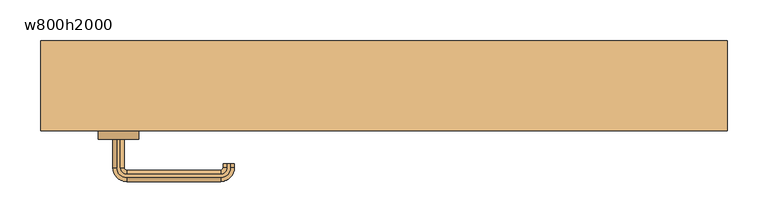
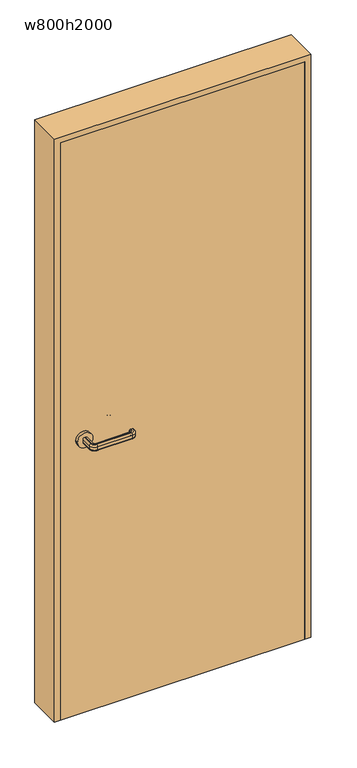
"""IFC4 building model written with IfcOpenShell, lengths in millimetres: door geometry, 片開き : w800h2000."""

from ifc_helpers import new_model, si_unit, point, frame, frame_2d, origin, origin_with_axes, place, context, project, spatial, polyline, circle_curve, ellipse_curve, trimmed, segment, composite_curve, outline, extrude, source, transform, mapped, element, save
from ifc_brep_helpers import plane_surface, cylinder_surface, revolved_surface, advanced_brep


def w800h2000_2b8736a8(model_context):
    return source(origin(), model_context, "Body", "SolidModel", [
        advanced_brep(
        [(-327.0, -65.0, 960.0), (-323.0, -65.0, 960.0), (-318.0, -65.0, 955.0), (-318.0, -65.0, 945.0477623), (-323.0, -65.0, 940.0477623), (-327.0, -65.0, 940.0477623), (-332.0, -65.0, 945.0477623), (-332.0, -65.0, 955.0), (-332.0, -100.0, 955.0), (-327.0, -100.0, 960.0), (-332.0, -100.0, 945.0477623), (-327.0, -100.0, 940.0477623), (-323.0, -100.0, 940.0477623), (-315.0, -108.0, 940.0477623), (-200.0, -108.0, 940.0477623), (-192.0, -100.0, 940.0477623), (-192.0, -95.0, 940.0477623), (-188.0, -95.0, 940.0477623), (-188.0, -100.0, 940.0477623), (-200.0, -112.0, 940.0477623), (-315.0, -112.0, 940.0477623), (-318.0, -100.0, 945.0477623), (-318.0, -100.0, 955.0), (-323.0, -100.0, 960.0), (-315.0, -112.0, 960.0), (-200.0, -112.0, 960.0), (-188.0, -100.0, 960.0), (-188.0, -95.0, 960.0), (-192.0, -95.0, 960.0), (-192.0, -100.0, 960.0), (-200.0, -108.0, 960.0), (-315.0, -108.0, 960.0), (-315.0, -117.0, 955.0), (-315.0, -117.0, 945.0477623), (-315.0, -103.0, 945.0477623), (-315.0, -103.0, 955.0), (-200.0, -117.0, 955.0), (-200.0, -117.0, 945.0477623), (-200.0, -103.0, 945.0477623), (-200.0, -103.0, 955.0), (-183.0, -100.0, 955.0), (-183.0, -100.0, 945.0477623), (-197.0, -100.0, 945.0477623), (-197.0, -100.0, 955.0), (-183.0, -95.0, 955.0), (-183.0, -95.0, 945.0477623), (-197.0, -95.0, 945.0477623), (-197.0, -95.0, 955.0)],
        [
            (0, 1),
            (1, 2, circle_curve(frame((-323.0, -65.0, 955.0), z_axis=(0.0, 1.0, 0.0), x_axis=(-1.0, 0.0, 0.0)), 5.0)),
            (2, 3),
            (3, 4, circle_curve(frame((-323.0, -65.0, 945.0477623), z_axis=(0.0, 1.0, 0.0), x_axis=(-1.0, 0.0, 0.0)), 5.0)),
            (4, 5),
            (5, 6, circle_curve(frame((-327.0, -65.0, 945.0477623), z_axis=(0.0, 1.0, 0.0), x_axis=(-1.0, 0.0, 0.0)), 5.0)),
            (6, 7),
            (7, 0, circle_curve(frame((-327.0, -65.0, 955.0), z_axis=(0.0, 1.0, 0.0), x_axis=(-1.0, 0.0, 0.0)), 5.0)),
            (7, 8),
            (8, 9, circle_curve(frame((-327.0, -100.0, 955.0), z_axis=(0.0, 1.0, 0.0), x_axis=(-1.0, 0.0, 0.0)), 5.0)),
            (9, 0),
            (6, 10),
            (10, 8),
            (5, 11),
            (11, 10, circle_curve(frame((-327.0, -100.0, 945.0477623), z_axis=(0.0, 1.0, 0.0), x_axis=(-1.0, 0.0, 0.0)), 5.0)),
            (4, 12),
            (12, 13, circle_curve(frame((-315.0, -100.0, 940.0477623), z_axis=(0.0, 0.0, 1.0), x_axis=(-1.0, 0.0, 0.0)), 8.0)),
            (13, 14),
            (14, 15, circle_curve(frame((-200.0, -100.0, 940.0477623), z_axis=(0.0, 0.0, 1.0), x_axis=(0.0, -1.0, 0.0)), 8.0)),
            (15, 16),
            (16, 17),
            (17, 18),
            (18, 19, circle_curve(frame((-200.0, -100.0, 940.0477623), z_axis=(0.0, 0.0, -1.0), x_axis=(0.0, -1.0, 0.0)), 12.0)),
            (19, 20),
            (20, 11, circle_curve(frame((-315.0, -100.0, 940.0477623), z_axis=(0.0, 0.0, -1.0), x_axis=(-1.0, 0.0, 0.0)), 12.0)),
            (3, 21),
            (21, 12, circle_curve(frame((-323.0, -100.0, 945.0477623), z_axis=(0.0, 1.0, 0.0), x_axis=(-1.0, 0.0, 0.0)), 5.0)),
            (2, 22),
            (22, 21),
            (1, 23),
            (23, 22, circle_curve(frame((-323.0, -100.0, 955.0), z_axis=(0.0, 1.0, 0.0), x_axis=(-1.0, 0.0, 0.0)), 5.0)),
            (9, 24, circle_curve(frame((-315.0, -100.0, 960.0), z_axis=(0.0, 0.0, 1.0), x_axis=(-1.0, 0.0, 0.0)), 12.0)),
            (24, 25),
            (25, 26, circle_curve(frame((-200.0, -100.0, 960.0), z_axis=(0.0, 0.0, 1.0), x_axis=(0.0, -1.0, 0.0)), 12.0)),
            (26, 27),
            (27, 28),
            (28, 29),
            (29, 30, circle_curve(frame((-200.0, -100.0, 960.0), z_axis=(0.0, 0.0, -1.0), x_axis=(0.0, -1.0, 0.0)), 8.0)),
            (30, 31),
            (31, 23, circle_curve(frame((-315.0, -100.0, 960.0), z_axis=(0.0, 0.0, -1.0), x_axis=(-1.0, 0.0, 0.0)), 8.0)),
            (32, 24, circle_curve(frame((-315.0, -112.0, 955.0), z_axis=(-1.0, 0.0, 0.0), x_axis=(0.0, -1.0, 0.0)), 5.0)),
            (8, 32, circle_curve(frame((-315.0, -100.0, 955.0), z_axis=(0.0, 0.0, 1.0), x_axis=(-1.0, 0.0, 0.0)), 17.0)),
            (33, 32),
            (10, 33, circle_curve(frame((-315.0, -100.0, 945.0477623), z_axis=(0.0, 0.0, 1.0), x_axis=(-1.0, 0.0, 0.0)), 17.0)),
            (20, 33, circle_curve(frame((-315.0, -112.0, 945.0477623), z_axis=(-1.0, 0.0, 0.0), x_axis=(0.0, -1.0, 0.0)), 5.0)),
            (34, 13, circle_curve(frame((-315.0, -108.0, 945.0477623), z_axis=(-1.0, 0.0, 0.0), x_axis=(0.0, -1.0, 0.0)), 5.0)),
            (21, 34, circle_curve(frame((-315.0, -100.0, 945.0477623), z_axis=(0.0, 0.0, 1.0), x_axis=(-1.0, 0.0, 0.0)), 3.0)),
            (35, 34),
            (22, 35, circle_curve(frame((-315.0, -100.0, 955.0), z_axis=(0.0, 0.0, 1.0), x_axis=(-1.0, 0.0, 0.0)), 3.0)),
            (31, 35, circle_curve(frame((-315.0, -108.0, 955.0), z_axis=(-1.0, 0.0, 0.0), x_axis=(0.0, -1.0, 0.0)), 5.0)),
            (32, 36),
            (36, 25, circle_curve(frame((-200.0, -112.0, 955.0), z_axis=(-1.0, 0.0, 0.0), x_axis=(0.0, -1.0, 0.0)), 5.0)),
            (33, 37),
            (37, 36),
            (19, 37, circle_curve(frame((-200.0, -112.0, 945.0477623), z_axis=(-1.0, 0.0, 0.0), x_axis=(0.0, -1.0, 0.0)), 5.0)),
            (34, 38),
            (38, 14, circle_curve(frame((-200.0, -108.0, 945.0477623), z_axis=(-1.0, 0.0, 0.0), x_axis=(0.0, -1.0, 0.0)), 5.0)),
            (35, 39),
            (39, 38),
            (30, 39, circle_curve(frame((-200.0, -108.0, 955.0), z_axis=(-1.0, 0.0, 0.0), x_axis=(0.0, -1.0, 0.0)), 5.0)),
            (40, 26, circle_curve(frame((-188.0, -100.0, 955.0), z_axis=(0.0, -1.0, 0.0), x_axis=(1.0, 0.0, 0.0)), 5.0)),
            (36, 40, circle_curve(frame((-200.0, -100.0, 955.0), z_axis=(0.0, 0.0, 1.0), x_axis=(0.0, -1.0, 0.0)), 17.0)),
            (41, 40),
            (37, 41, circle_curve(frame((-200.0, -100.0, 945.0477623), z_axis=(0.0, 0.0, 1.0), x_axis=(0.0, -1.0, 0.0)), 17.0)),
            (18, 41, circle_curve(frame((-188.0, -100.0, 945.0477623), z_axis=(0.0, -1.0, 0.0), x_axis=(1.0, 0.0, 0.0)), 5.0)),
            (42, 15, circle_curve(frame((-192.0, -100.0, 945.0477623), z_axis=(0.0, -1.0, 0.0), x_axis=(1.0, 0.0, 0.0)), 5.0)),
            (38, 42, circle_curve(frame((-200.0, -100.0, 945.0477623), z_axis=(0.0, 0.0, 1.0), x_axis=(0.0, -1.0, 0.0)), 3.0)),
            (43, 42),
            (39, 43, circle_curve(frame((-200.0, -100.0, 955.0), z_axis=(0.0, 0.0, 1.0), x_axis=(0.0, -1.0, 0.0)), 3.0)),
            (29, 43, circle_curve(frame((-192.0, -100.0, 955.0), z_axis=(0.0, -1.0, 0.0), x_axis=(1.0, 0.0, 0.0)), 5.0)),
            (27, 44, circle_curve(frame((-188.0, -95.0, 955.0), z_axis=(0.0, 1.0, 0.0), x_axis=(1.0, 0.0, 0.0)), 5.0)),
            (44, 45),
            (45, 17, circle_curve(frame((-188.0, -95.0, 945.0477623), z_axis=(0.0, 1.0, 0.0), x_axis=(1.0, 0.0, 0.0)), 5.0)),
            (16, 46, circle_curve(frame((-192.0, -95.0, 945.0477623), z_axis=(0.0, 1.0, 0.0), x_axis=(1.0, 0.0, 0.0)), 5.0)),
            (46, 47),
            (47, 28, circle_curve(frame((-192.0, -95.0, 955.0), z_axis=(0.0, 1.0, 0.0), x_axis=(1.0, 0.0, 0.0)), 5.0)),
            (40, 44),
            (41, 45),
            (42, 46),
            (43, 47),
        ],
        [
            plane_surface(frame((-335.198039, -65.0, 950.0), z_axis=(0.0, 1.0, 0.0), x_axis=(0.0, 0.0, 1.0))),
            cylinder_surface(frame((-327.0, -65.0, 955.0), z_axis=(0.0, 1.0, 0.0), x_axis=(-1.0, 0.0, 0.0)), 5.0),
            plane_surface(frame((-332.0, -65.0, 955.0), z_axis=(-1.0, 0.0, 0.0), x_axis=(0.0, -1.0, 0.0))),
            cylinder_surface(frame((-327.0, -65.0, 945.0477623), z_axis=(0.0, 1.0, 0.0), x_axis=(-1.0, 0.0, 0.0)), 5.0),
            plane_surface(frame((-327.0, -65.0, 940.0477623), z_axis=(0.0, 0.0, -1.0), x_axis=(0.0, -1.0, 0.0))),
            cylinder_surface(frame((-323.0, -65.0, 945.0477623), z_axis=(0.0, 1.0, 0.0), x_axis=(-1.0, 0.0, 0.0)), 5.0),
            plane_surface(frame((-318.0, -65.0, 945.0477623), z_axis=(1.0, 0.0, 0.0), x_axis=(0.0, -1.0, 0.0))),
            cylinder_surface(frame((-323.0, -65.0, 955.0), z_axis=(0.0, 1.0, 0.0), x_axis=(-1.0, 0.0, 0.0)), 5.0),
            plane_surface(frame((-323.0, -65.0, 960.0), z_axis=(0.0, 0.0, 1.0), x_axis=(0.0, -1.0, 0.0))),
            revolved_surface(trimmed(ellipse_curve(frame((-327.0, -100.0, 955.0), z_axis=(0.0, -1.0, 0.0), x_axis=(-1.0, 0.0, 0.0)), 5.0, 5.0), [point((-327.0, -100.0, 960.0))], [point((-332.0, -100.0, 955.0))], True, "CARTESIAN"), (-315.0, -100.0, 950.0), (0.0, 0.0, -1.0)),
            cylinder_surface(frame((-315.0, -100.0, 950.0), z_axis=(0.0, 0.0, -1.0), x_axis=(-1.0, 0.0, 0.0)), 17.0),
            revolved_surface(trimmed(ellipse_curve(frame((-327.0, -100.0, 945.0477623), z_axis=(0.0, -1.0, 0.0), x_axis=(-1.0, 0.0, 0.0)), 5.0, 5.0), [point((-332.0, -100.0, 945.0477623))], [point((-327.0, -100.0, 940.0477623))], True, "CARTESIAN"), (-315.0, -100.0, 950.0), (0.0, 0.0, -1.0)),
            revolved_surface(trimmed(ellipse_curve(frame((-323.0, -100.0, 945.0477623), z_axis=(0.0, -1.0, 0.0), x_axis=(-1.0, 0.0, 0.0)), 5.0, 5.0), [point((-323.0, -100.0, 940.0477623))], [point((-318.0, -100.0, 945.0477623))], True, "CARTESIAN"), (-315.0, -100.0, 950.0), (0.0, 0.0, -1.0)),
            revolved_surface(polyline([(-318.0, -100.0, 945.0477623), (-318.0, -100.0, 955.0)]), (-315.0, -100.0, 950.0), (0.0, 0.0, -1.0)),
            revolved_surface(trimmed(ellipse_curve(frame((-323.0, -100.0, 955.0), z_axis=(0.0, -1.0, 0.0), x_axis=(-1.0, 0.0, 0.0)), 5.0, 5.0), [point((-318.0, -100.0, 955.0))], [point((-323.0, -100.0, 960.0))], True, "CARTESIAN"), (-315.0, -100.0, 950.0), (0.0, 0.0, -1.0)),
            cylinder_surface(frame((-315.0, -112.0, 955.0), z_axis=(-1.0, 0.0, 0.0), x_axis=(0.0, -1.0, 0.0)), 5.0),
            plane_surface(frame((-315.0, -117.0, 955.0), z_axis=(0.0, -1.0, 0.0), x_axis=(1.0, 0.0, 0.0))),
            cylinder_surface(frame((-315.0, -112.0, 945.0477623), z_axis=(-1.0, 0.0, 0.0), x_axis=(0.0, -1.0, 0.0)), 5.0),
            cylinder_surface(frame((-315.0, -108.0, 945.0477623), z_axis=(-1.0, 0.0, 0.0), x_axis=(0.0, -1.0, 0.0)), 5.0),
            plane_surface(frame((-315.0, -103.0, 945.0477623), z_axis=(0.0, 1.0, 0.0), x_axis=(1.0, 0.0, 0.0))),
            cylinder_surface(frame((-315.0, -108.0, 955.0), z_axis=(-1.0, 0.0, 0.0), x_axis=(0.0, -1.0, 0.0)), 5.0),
            revolved_surface(trimmed(ellipse_curve(frame((-200.0, -112.0, 955.0), z_axis=(1.0, 0.0, 0.0), x_axis=(0.0, -1.0, 0.0)), 5.0, 5.0), [point((-200.0, -112.0, 960.0))], [point((-200.0, -117.0, 955.0))], True, "CARTESIAN"), (-200.0, -100.0, 950.0), (0.0, 0.0, -1.0)),
            cylinder_surface(frame((-200.0, -100.0, 950.0), z_axis=(0.0, 0.0, -1.0), x_axis=(0.0, -1.0, 0.0)), 17.0),
            revolved_surface(trimmed(ellipse_curve(frame((-200.0, -112.0, 945.0477623), z_axis=(1.0, 0.0, 0.0), x_axis=(0.0, -1.0, 0.0)), 5.0, 5.0), [point((-200.0, -117.0, 945.0477623))], [point((-200.0, -112.0, 940.0477623))], True, "CARTESIAN"), (-200.0, -100.0, 950.0), (0.0, 0.0, -1.0)),
            revolved_surface(trimmed(ellipse_curve(frame((-200.0, -108.0, 945.0477623), z_axis=(1.0, 0.0, 0.0), x_axis=(0.0, -1.0, 0.0)), 5.0, 5.0), [point((-200.0, -108.0, 940.0477623))], [point((-200.0, -103.0, 945.0477623))], True, "CARTESIAN"), (-200.0, -100.0, 950.0), (0.0, 0.0, -1.0)),
            revolved_surface(polyline([(-200.0, -103.0, 945.0477623), (-200.0, -103.0, 955.0)]), (-200.0, -100.0, 950.0), (0.0, 0.0, -1.0)),
            revolved_surface(trimmed(ellipse_curve(frame((-200.0, -108.0, 955.0), z_axis=(1.0, 0.0, 0.0), x_axis=(0.0, -1.0, 0.0)), 5.0, 5.0), [point((-200.0, -103.0, 955.0))], [point((-200.0, -108.0, 960.0))], True, "CARTESIAN"), (-200.0, -100.0, 950.0), (0.0, 0.0, -1.0)),
            plane_surface(frame((-200.198039, -95.0, 950.0), z_axis=(0.0, 1.0, 0.0), x_axis=(0.0, 0.0, -1.0))),
            cylinder_surface(frame((-188.0, -100.0, 955.0), z_axis=(0.0, -1.0, 0.0), x_axis=(1.0, 0.0, 0.0)), 5.0),
            plane_surface(frame((-183.0, -100.0, 955.0), z_axis=(1.0, 0.0, 0.0), x_axis=(0.0, 1.0, 0.0))),
            cylinder_surface(frame((-188.0, -100.0, 945.0477623), z_axis=(0.0, -1.0, 0.0), x_axis=(1.0, 0.0, 0.0)), 5.0),
            cylinder_surface(frame((-192.0, -100.0, 945.0477623), z_axis=(0.0, -1.0, 0.0), x_axis=(1.0, 0.0, 0.0)), 5.0),
            plane_surface(frame((-197.0, -100.0, 945.0477623), z_axis=(-1.0, 0.0, 0.0), x_axis=(0.0, 1.0, 0.0))),
            cylinder_surface(frame((-192.0, -100.0, 955.0), z_axis=(0.0, -1.0, 0.0), x_axis=(1.0, 0.0, 0.0)), 5.0),
        ],
        [
            (0, [[1, 2, 3, 4, 5, 6, 7, 8]]),
            (1, [[9, 10, 11, -8]]),
            (2, [[12, 13, -9, -7]]),
            (3, [[14, 15, -12, -6]]),
            (4, [[16, 17, 18, 19, 20, 21, 22, 23, 24, 25, -14, -5]]),
            (5, [[26, 27, -16, -4]]),
            (6, [[28, 29, -26, -3]]),
            (7, [[30, 31, -28, -2]]),
            (8, [[-11, 32, 33, 34, 35, 36, 37, 38, 39, 40, -30, -1]]),
            (9, [[41, -32, -10, 42]]),
            (10, [[43, -42, -13, 44]]),
            (11, [[45, -44, -15, -25]]),
            (12, [[46, -17, -27, 47]]),
            (13, [[48, -47, -29, 49]]),
            (14, [[50, -49, -31, -40]]),
            (15, [[51, 52, -33, -41]]),
            (16, [[53, 54, -51, -43]]),
            (17, [[-24, 55, -53, -45]]),
            (18, [[56, 57, -18, -46]]),
            (19, [[58, 59, -56, -48]]),
            (20, [[-39, 60, -58, -50]]),
            (21, [[61, -34, -52, 62]]),
            (22, [[63, -62, -54, 64]]),
            (23, [[65, -64, -55, -23]]),
            (24, [[66, -19, -57, 67]]),
            (25, [[68, -67, -59, 69]]),
            (26, [[70, -69, -60, -38]]),
            (27, [[71, 72, 73, -21, 74, 75, 76, -36]]),
            (28, [[77, -71, -35, -61]]),
            (29, [[78, -72, -77, -63]]),
            (30, [[-22, -73, -78, -65]]),
            (31, [[79, -74, -20, -66]]),
            (32, [[80, -75, -79, -68]]),
            (33, [[-37, -76, -80, -70]]),
        ],
    ),
        advanced_brep(
        [(-323.0, -20.0, 940.0), (-318.0, -20.0, 945.0), (-318.0, -20.0, 955.0), (-323.0, -20.0, 960.0), (-327.0, -20.0, 960.0), (-332.0, -20.0, 955.0), (-332.0, -20.0, 945.0), (-327.0, -20.0, 940.0), (-327.0, 15.0, 940.0), (-315.0, 27.0, 940.0), (-200.0, 27.0, 940.0), (-188.0, 15.0, 940.0), (-188.0, 10.0, 940.0), (-192.0, 10.0, 940.0), (-192.0, 15.0, 940.0), (-200.0, 23.0, 940.0), (-315.0, 23.0, 940.0), (-323.0, 15.0, 940.0), (-332.0, 15.0, 945.0), (-332.0, 15.0, 955.0), (-327.0, 15.0, 960.0), (-323.0, 15.0, 960.0), (-315.0, 23.0, 960.0), (-200.0, 23.0, 960.0), (-192.0, 15.0, 960.0), (-192.0, 10.0, 960.0), (-188.0, 10.0, 960.0), (-188.0, 15.0, 960.0), (-200.0, 27.0, 960.0), (-315.0, 27.0, 960.0), (-318.0, 15.0, 955.0), (-318.0, 15.0, 945.0), (-315.0, 32.0, 945.0), (-315.0, 32.0, 955.0), (-315.0, 18.0, 955.0), (-315.0, 18.0, 945.0), (-200.0, 32.0, 945.0), (-200.0, 32.0, 955.0), (-200.0, 18.0, 955.0), (-200.0, 18.0, 945.0), (-183.0, 15.0, 945.0), (-183.0, 15.0, 955.0), (-197.0, 15.0, 955.0), (-197.0, 15.0, 945.0), (-183.0, 10.0, 945.0), (-183.0, 10.0, 955.0), (-197.0, 10.0, 955.0), (-197.0, 10.0, 945.0)],
        [
            (0, 1, circle_curve(frame((-323.0, -20.0, 945.0), z_axis=(0.0, -1.0, 0.0), x_axis=(1.0, 0.0, 0.0)), 5.0)),
            (1, 2),
            (2, 3, circle_curve(frame((-323.0, -20.0, 955.0), z_axis=(0.0, -1.0, 0.0), x_axis=(1.0, 0.0, 0.0)), 5.0)),
            (3, 4),
            (4, 5, circle_curve(frame((-327.0, -20.0, 955.0), z_axis=(0.0, -1.0, 0.0), x_axis=(1.0, 0.0, 0.0)), 5.0)),
            (5, 6),
            (6, 7, circle_curve(frame((-327.0, -20.0, 945.0), z_axis=(0.0, -1.0, 0.0), x_axis=(1.0, 0.0, 0.0)), 5.0)),
            (7, 0),
            (7, 8),
            (8, 9, circle_curve(frame((-315.0, 15.0, 940.0), z_axis=(0.0, 0.0, -1.0), x_axis=(-1.0, 0.0, 0.0)), 12.0)),
            (9, 10),
            (10, 11, circle_curve(frame((-200.0, 15.0, 940.0), z_axis=(0.0, 0.0, -1.0), x_axis=(0.0, 1.0, 0.0)), 12.0)),
            (11, 12),
            (12, 13),
            (13, 14),
            (14, 15, circle_curve(frame((-200.0, 15.0, 940.0), z_axis=(0.0, 0.0, 1.0), x_axis=(0.0, 1.0, 0.0)), 8.0)),
            (15, 16),
            (16, 17, circle_curve(frame((-315.0, 15.0, 940.0), z_axis=(0.0, 0.0, 1.0), x_axis=(-1.0, 0.0, 0.0)), 8.0)),
            (17, 0),
            (6, 18),
            (18, 8, circle_curve(frame((-327.0, 15.0, 945.0), z_axis=(0.0, -1.0, 0.0), x_axis=(1.0, 0.0, 0.0)), 5.0)),
            (5, 19),
            (19, 18),
            (4, 20),
            (20, 19, circle_curve(frame((-327.0, 15.0, 955.0), z_axis=(0.0, -1.0, 0.0), x_axis=(1.0, 0.0, 0.0)), 5.0)),
            (3, 21),
            (21, 22, circle_curve(frame((-315.0, 15.0, 960.0), z_axis=(0.0, 0.0, -1.0), x_axis=(-1.0, 0.0, 0.0)), 8.0)),
            (22, 23),
            (23, 24, circle_curve(frame((-200.0, 15.0, 960.0), z_axis=(0.0, 0.0, -1.0), x_axis=(0.0, 1.0, 0.0)), 8.0)),
            (24, 25),
            (25, 26),
            (26, 27),
            (27, 28, circle_curve(frame((-200.0, 15.0, 960.0), z_axis=(0.0, 0.0, 1.0), x_axis=(0.0, 1.0, 0.0)), 12.0)),
            (28, 29),
            (29, 20, circle_curve(frame((-315.0, 15.0, 960.0), z_axis=(0.0, 0.0, 1.0), x_axis=(-1.0, 0.0, 0.0)), 12.0)),
            (2, 30),
            (30, 21, circle_curve(frame((-323.0, 15.0, 955.0), z_axis=(0.0, -1.0, 0.0), x_axis=(1.0, 0.0, 0.0)), 5.0)),
            (1, 31),
            (31, 30),
            (17, 31, circle_curve(frame((-323.0, 15.0, 945.0), z_axis=(0.0, -1.0, 0.0), x_axis=(1.0, 0.0, 0.0)), 5.0)),
            (32, 9, circle_curve(frame((-315.0, 27.0, 945.0), z_axis=(-1.0, 0.0, 0.0), x_axis=(0.0, -1.0, 0.0)), 5.0)),
            (18, 32, circle_curve(frame((-315.0, 15.0, 945.0), z_axis=(0.0, 0.0, -1.0), x_axis=(-1.0, 0.0, 0.0)), 17.0)),
            (33, 32),
            (19, 33, circle_curve(frame((-315.0, 15.0, 955.0), z_axis=(0.0, 0.0, -1.0), x_axis=(-1.0, 0.0, 0.0)), 17.0)),
            (29, 33, circle_curve(frame((-315.0, 27.0, 955.0), z_axis=(-1.0, 0.0, 0.0), x_axis=(0.0, -1.0, 0.0)), 5.0)),
            (34, 22, circle_curve(frame((-315.0, 23.0, 955.0), z_axis=(-1.0, 0.0, 0.0), x_axis=(0.0, -1.0, 0.0)), 5.0)),
            (30, 34, circle_curve(frame((-315.0, 15.0, 955.0), z_axis=(0.0, 0.0, -1.0), x_axis=(-1.0, 0.0, 0.0)), 3.0)),
            (35, 34),
            (31, 35, circle_curve(frame((-315.0, 15.0, 945.0), z_axis=(0.0, 0.0, -1.0), x_axis=(-1.0, 0.0, 0.0)), 3.0)),
            (16, 35, circle_curve(frame((-315.0, 23.0, 945.0), z_axis=(-1.0, 0.0, 0.0), x_axis=(0.0, -1.0, 0.0)), 5.0)),
            (32, 36),
            (36, 10, circle_curve(frame((-200.0, 27.0, 945.0), z_axis=(-1.0, 0.0, 0.0), x_axis=(0.0, -1.0, 0.0)), 5.0)),
            (33, 37),
            (37, 36),
            (28, 37, circle_curve(frame((-200.0, 27.0, 955.0), z_axis=(-1.0, 0.0, 0.0), x_axis=(0.0, -1.0, 0.0)), 5.0)),
            (34, 38),
            (38, 23, circle_curve(frame((-200.0, 23.0, 955.0), z_axis=(-1.0, 0.0, 0.0), x_axis=(0.0, -1.0, 0.0)), 5.0)),
            (35, 39),
            (39, 38),
            (15, 39, circle_curve(frame((-200.0, 23.0, 945.0), z_axis=(-1.0, 0.0, 0.0), x_axis=(0.0, -1.0, 0.0)), 5.0)),
            (40, 11, circle_curve(frame((-188.0, 15.0, 945.0), z_axis=(0.0, 1.0, 0.0), x_axis=(-1.0, 0.0, 0.0)), 5.0)),
            (36, 40, circle_curve(frame((-200.0, 15.0, 945.0), z_axis=(0.0, 0.0, -1.0), x_axis=(0.0, 1.0, 0.0)), 17.0)),
            (41, 40),
            (37, 41, circle_curve(frame((-200.0, 15.0, 955.0), z_axis=(0.0, 0.0, -1.0), x_axis=(0.0, 1.0, 0.0)), 17.0)),
            (27, 41, circle_curve(frame((-188.0, 15.0, 955.0), z_axis=(0.0, 1.0, 0.0), x_axis=(-1.0, 0.0, 0.0)), 5.0)),
            (42, 24, circle_curve(frame((-192.0, 15.0, 955.0), z_axis=(0.0, 1.0, 0.0), x_axis=(-1.0, 0.0, 0.0)), 5.0)),
            (38, 42, circle_curve(frame((-200.0, 15.0, 955.0), z_axis=(0.0, 0.0, -1.0), x_axis=(0.0, 1.0, 0.0)), 3.0)),
            (43, 42),
            (39, 43, circle_curve(frame((-200.0, 15.0, 945.0), z_axis=(0.0, 0.0, -1.0), x_axis=(0.0, 1.0, 0.0)), 3.0)),
            (14, 43, circle_curve(frame((-192.0, 15.0, 945.0), z_axis=(0.0, 1.0, 0.0), x_axis=(-1.0, 0.0, 0.0)), 5.0)),
            (12, 44, circle_curve(frame((-188.0, 10.0, 945.0), z_axis=(0.0, -1.0, 0.0), x_axis=(-1.0, 0.0, 0.0)), 5.0)),
            (44, 45),
            (45, 26, circle_curve(frame((-188.0, 10.0, 955.0), z_axis=(0.0, -1.0, 0.0), x_axis=(-1.0, 0.0, 0.0)), 5.0)),
            (25, 46, circle_curve(frame((-192.0, 10.0, 955.0), z_axis=(0.0, -1.0, 0.0), x_axis=(-1.0, 0.0, 0.0)), 5.0)),
            (46, 47),
            (47, 13, circle_curve(frame((-192.0, 10.0, 945.0), z_axis=(0.0, -1.0, 0.0), x_axis=(-1.0, 0.0, 0.0)), 5.0)),
            (40, 44),
            (41, 45),
            (42, 46),
            (43, 47),
        ],
        [
            plane_surface(frame((-335.198039, -20.0, 950.0), z_axis=(0.0, -1.0, 0.0), x_axis=(0.0, 0.0, -1.0))),
            plane_surface(frame((-323.0, -20.0, 940.0), z_axis=(0.0, 0.0, -1.0), x_axis=(0.0, 1.0, 0.0))),
            cylinder_surface(frame((-327.0, -20.0, 945.0), z_axis=(0.0, -1.0, 0.0), x_axis=(1.0, 0.0, 0.0)), 5.0),
            plane_surface(frame((-332.0, -20.0, 945.0), z_axis=(-1.0, 0.0, 0.0), x_axis=(0.0, 1.0, 0.0))),
            cylinder_surface(frame((-327.0, -20.0, 955.0), z_axis=(0.0, -1.0, 0.0), x_axis=(1.0, 0.0, 0.0)), 5.0),
            plane_surface(frame((-327.0, -20.0, 960.0), z_axis=(0.0, 0.0, 1.0), x_axis=(0.0, 1.0, 0.0))),
            cylinder_surface(frame((-323.0, -20.0, 955.0), z_axis=(0.0, -1.0, 0.0), x_axis=(1.0, 0.0, 0.0)), 5.0),
            plane_surface(frame((-318.0, -20.0, 955.0), z_axis=(1.0, 0.0, 0.0), x_axis=(0.0, 1.0, 0.0))),
            cylinder_surface(frame((-323.0, -20.0, 945.0), z_axis=(0.0, -1.0, 0.0), x_axis=(1.0, 0.0, 0.0)), 5.0),
            revolved_surface(trimmed(ellipse_curve(frame((-327.0, 15.0, 945.0), z_axis=(0.0, 1.0, 0.0), x_axis=(1.0, 0.0, 0.0)), 5.0, 5.0), [point((-327.0, 15.0, 940.0))], [point((-332.0, 15.0, 945.0))], True, "CARTESIAN"), (-315.0, 15.0, 950.0), (0.0, 0.0, 1.0)),
            cylinder_surface(frame((-315.0, 15.0, 950.0), z_axis=(0.0, 0.0, 1.0), x_axis=(-1.0, 0.0, 0.0)), 17.0),
            revolved_surface(trimmed(ellipse_curve(frame((-327.0, 15.0, 955.0), z_axis=(0.0, 1.0, 0.0), x_axis=(1.0, 0.0, 0.0)), 5.0, 5.0), [point((-332.0, 15.0, 955.0))], [point((-327.0, 15.0, 960.0))], True, "CARTESIAN"), (-315.0, 15.0, 950.0), (0.0, 0.0, 1.0)),
            revolved_surface(trimmed(ellipse_curve(frame((-323.0, 15.0, 955.0), z_axis=(0.0, 1.0, 0.0), x_axis=(1.0, 0.0, 0.0)), 5.0, 5.0), [point((-323.0, 15.0, 960.0))], [point((-318.0, 15.0, 955.0))], True, "CARTESIAN"), (-315.0, 15.0, 950.0), (0.0, 0.0, 1.0)),
            revolved_surface(polyline([(-318.0, 15.0, 955.0), (-318.0, 15.0, 945.0)]), (-315.0, 15.0, 950.0), (0.0, 0.0, 1.0)),
            revolved_surface(trimmed(ellipse_curve(frame((-323.0, 15.0, 945.0), z_axis=(0.0, 1.0, 0.0), x_axis=(1.0, 0.0, 0.0)), 5.0, 5.0), [point((-318.0, 15.0, 945.0))], [point((-323.0, 15.0, 940.0))], True, "CARTESIAN"), (-315.0, 15.0, 950.0), (0.0, 0.0, 1.0)),
            cylinder_surface(frame((-315.0, 27.0, 945.0), z_axis=(-1.0, 0.0, 0.0), x_axis=(0.0, -1.0, 0.0)), 5.0),
            plane_surface(frame((-315.0, 32.0, 945.0), z_axis=(0.0, 1.0, 0.0), x_axis=(1.0, 0.0, 0.0))),
            cylinder_surface(frame((-315.0, 27.0, 955.0), z_axis=(-1.0, 0.0, 0.0), x_axis=(0.0, -1.0, 0.0)), 5.0),
            cylinder_surface(frame((-315.0, 23.0, 955.0), z_axis=(-1.0, 0.0, 0.0), x_axis=(0.0, -1.0, 0.0)), 5.0),
            plane_surface(frame((-315.0, 18.0, 955.0), z_axis=(0.0, -1.0, 0.0), x_axis=(1.0, 0.0, 0.0))),
            cylinder_surface(frame((-315.0, 23.0, 945.0), z_axis=(-1.0, 0.0, 0.0), x_axis=(0.0, -1.0, 0.0)), 5.0),
            revolved_surface(trimmed(ellipse_curve(frame((-200.0, 27.0, 945.0), z_axis=(1.0, 0.0, 0.0), x_axis=(0.0, -1.0, 0.0)), 5.0, 5.0), [point((-200.0, 27.0, 940.0))], [point((-200.0, 32.0, 945.0))], True, "CARTESIAN"), (-200.0, 15.0, 950.0), (0.0, 0.0, 1.0)),
            cylinder_surface(frame((-200.0, 15.0, 950.0), z_axis=(0.0, 0.0, 1.0), x_axis=(0.0, 1.0, 0.0)), 17.0),
            revolved_surface(trimmed(ellipse_curve(frame((-200.0, 27.0, 955.0), z_axis=(1.0, 0.0, 0.0), x_axis=(0.0, -1.0, 0.0)), 5.0, 5.0), [point((-200.0, 32.0, 955.0))], [point((-200.0, 27.0, 960.0))], True, "CARTESIAN"), (-200.0, 15.0, 950.0), (0.0, 0.0, 1.0)),
            revolved_surface(trimmed(ellipse_curve(frame((-200.0, 23.0, 955.0), z_axis=(1.0, 0.0, 0.0), x_axis=(0.0, -1.0, 0.0)), 5.0, 5.0), [point((-200.0, 23.0, 960.0))], [point((-200.0, 18.0, 955.0))], True, "CARTESIAN"), (-200.0, 15.0, 950.0), (0.0, 0.0, 1.0)),
            revolved_surface(polyline([(-200.0, 18.0, 955.0), (-200.0, 18.0, 945.0)]), (-200.0, 15.0, 950.0), (0.0, 0.0, 1.0)),
            revolved_surface(trimmed(ellipse_curve(frame((-200.0, 23.0, 945.0), z_axis=(1.0, 0.0, 0.0), x_axis=(0.0, -1.0, 0.0)), 5.0, 5.0), [point((-200.0, 18.0, 945.0))], [point((-200.0, 23.0, 940.0))], True, "CARTESIAN"), (-200.0, 15.0, 950.0), (0.0, 0.0, 1.0)),
            plane_surface(frame((-200.198039, 10.0, 950.0), z_axis=(0.0, -1.0, 0.0), x_axis=(0.0, 0.0, 1.0))),
            cylinder_surface(frame((-188.0, 15.0, 945.0), z_axis=(0.0, 1.0, 0.0), x_axis=(-1.0, 0.0, 0.0)), 5.0),
            plane_surface(frame((-183.0, 15.0, 945.0), z_axis=(1.0, 0.0, 0.0), x_axis=(0.0, -1.0, 0.0))),
            cylinder_surface(frame((-188.0, 15.0, 955.0), z_axis=(0.0, 1.0, 0.0), x_axis=(-1.0, 0.0, 0.0)), 5.0),
            cylinder_surface(frame((-192.0, 15.0, 955.0), z_axis=(0.0, 1.0, 0.0), x_axis=(-1.0, 0.0, 0.0)), 5.0),
            plane_surface(frame((-197.0, 15.0, 955.0), z_axis=(-1.0, 0.0, 0.0), x_axis=(0.0, -1.0, 0.0))),
            cylinder_surface(frame((-192.0, 15.0, 945.0), z_axis=(0.0, 1.0, 0.0), x_axis=(-1.0, 0.0, 0.0)), 5.0),
        ],
        [
            (0, [[1, 2, 3, 4, 5, 6, 7, 8]]),
            (1, [[9, 10, 11, 12, 13, 14, 15, 16, 17, 18, 19, -8]]),
            (2, [[20, 21, -9, -7]]),
            (3, [[22, 23, -20, -6]]),
            (4, [[24, 25, -22, -5]]),
            (5, [[26, 27, 28, 29, 30, 31, 32, 33, 34, 35, -24, -4]]),
            (6, [[36, 37, -26, -3]]),
            (7, [[38, 39, -36, -2]]),
            (8, [[-19, 40, -38, -1]]),
            (9, [[41, -10, -21, 42]]),
            (10, [[43, -42, -23, 44]]),
            (11, [[45, -44, -25, -35]]),
            (12, [[46, -27, -37, 47]]),
            (13, [[48, -47, -39, 49]]),
            (14, [[50, -49, -40, -18]]),
            (15, [[51, 52, -11, -41]]),
            (16, [[53, 54, -51, -43]]),
            (17, [[-34, 55, -53, -45]]),
            (18, [[56, 57, -28, -46]]),
            (19, [[58, 59, -56, -48]]),
            (20, [[-17, 60, -58, -50]]),
            (21, [[61, -12, -52, 62]]),
            (22, [[63, -62, -54, 64]]),
            (23, [[65, -64, -55, -33]]),
            (24, [[66, -29, -57, 67]]),
            (25, [[68, -67, -59, 69]]),
            (26, [[70, -69, -60, -16]]),
            (27, [[-14, 71, 72, 73, -31, 74, 75, 76]]),
            (28, [[77, -71, -13, -61]]),
            (29, [[78, -72, -77, -63]]),
            (30, [[-32, -73, -78, -65]]),
            (31, [[79, -74, -30, -66]]),
            (32, [[80, -75, -79, -68]]),
            (33, [[-15, -76, -80, -70]]),
        ],
    ),
        extrude(outline(composite_curve([segment(trimmed(circle_curve(frame_2d((950.0, -325.0)), 25.0), [point((950.0, -350.0))], [point((950.0, -300.0))], False, "CARTESIAN"), True, "CONTINUOUS"), segment(trimmed(circle_curve(frame_2d((950.0, -325.0)), 25.0), [point((950.0, -300.0))], [point((950.0, -350.0))], False, "CARTESIAN"), True, "CONTINUOUS")], self_intersect=False)), frame((0.0, -65.0, 0.0), z_axis=(0.0, 1.0, 0.0), x_axis=(0.0, 0.0, 1.0)), (0.0, 0.0, 1.0), 10.0),
        extrude(outline(composite_curve([segment(trimmed(circle_curve(frame_2d((950.0, -325.0)), 25.0), [point((950.0, -350.0))], [point((950.0, -300.0))], False, "CARTESIAN"), True, "CONTINUOUS"), segment(trimmed(circle_curve(frame_2d((950.0, -325.0)), 25.0), [point((950.0, -300.0))], [point((950.0, -350.0))], False, "CARTESIAN"), True, "CONTINUOUS")], self_intersect=False)), frame((0.0, -30.0, 0.0), z_axis=(0.0, 1.0, 0.0), x_axis=(0.0, 0.0, 1.0)), (0.0, 0.0, 1.0), 10.0),
        extrude(outline(polyline([(2020.0, -420.0), (0.0, -420.0), (0.0, -400.0), (2000.0, -400.0), (2000.0, 400.0), (0.0, 400.0), (0.0, 420.0), (2020.0, 420.0), (2020.0, -420.0)])), frame((0.0, -55.0, 0.0), z_axis=(0.0, 1.0, 0.0), x_axis=(0.0, 0.0, 1.0)), (0.0, 0.0, 1.0), 110.0),
        extrude(outline(polyline([(400.0, -30.0), (400.0, -55.0), (-400.0, -55.0), (-400.0, -30.0), (400.0, -30.0)])), origin_with_axes(), (0.0, 0.0, 1.0), 2000.0),
    ])


if __name__ == "__main__":
    model = new_model("IFC4")
    model_context = context("Model", 3, world=origin())
    ifc_project = project(units=[si_unit("LENGTHUNIT", "METRE", prefix="MILLI")], contexts=[model_context])
    site = spatial("IfcSite", under=ifc_project)
    building = spatial("IfcBuilding", under=site)
    placement = place(None, origin())
    w800h2000_shape = w800h2000_2b8736a8(model_context)
    element("IfcDoor", 1, ObjectType="片開き : w800h2000", at=placement, inside=building, context=model_context, shape_type="MappedRepresentation", body=[
        mapped(w800h2000_shape, transform((0.0, 0.0, 0.0), x_axis=(1.0, 0.0, 0.0), y_axis=(0.0, 1.0, 0.0), z_axis=(0.0, 0.0, 1.0))),
    ])
    save(model, "model.ifc")
